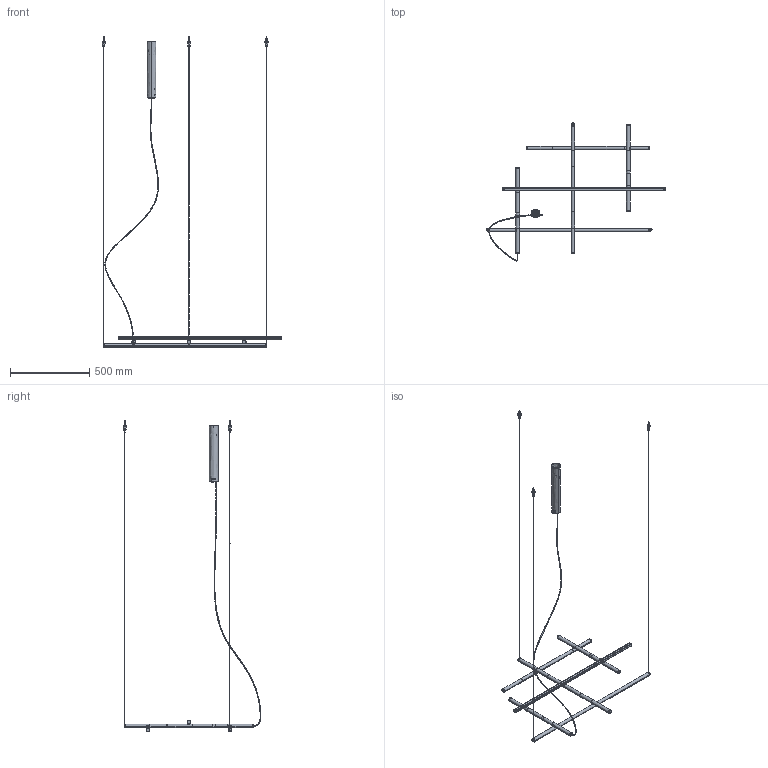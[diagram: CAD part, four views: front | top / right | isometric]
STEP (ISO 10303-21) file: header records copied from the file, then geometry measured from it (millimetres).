
FILE_DESCRIPTION(/* description */ (''),/* implementation_level */ '2;1');
FILE_NAME(/* name */ 'L028__~1',/* time_stamp */ '2024-06-28T17:20:34+02:00',/* author */ (''),/* organization */ (''),/* preprocessor_version */ 'ST-DEVELOPER v16.5',/* originating_system */ '',/* authorisation */ '');
FILE_SCHEMA (('AUTOMOTIVE_DESIGN'));
Products named in the file (1): Document
Bounding box: 1138.54 x 871.06 x 1963.9 mm (x, y, z)
Volume: 1744207.2 mm3; surface area: 835931.2 mm2
Topology: 70 solids, 82 shells, 3652 faces, 8803 edges, 5213 vertices
Faces by surface type: bspline 2410, plane 1242
Entity records: 205885 total; most frequent: CARTESIAN_POINT 153731, ORIENTED_EDGE 17402, EDGE_CURVE 8725, VERTEX_POINT 5213, B_SPLINE_CURVE_WITH_KNOTS 5153, EDGE_LOOP 3802, ADVANCED_FACE 3652, FACE_OUTER_BOUND 3652
